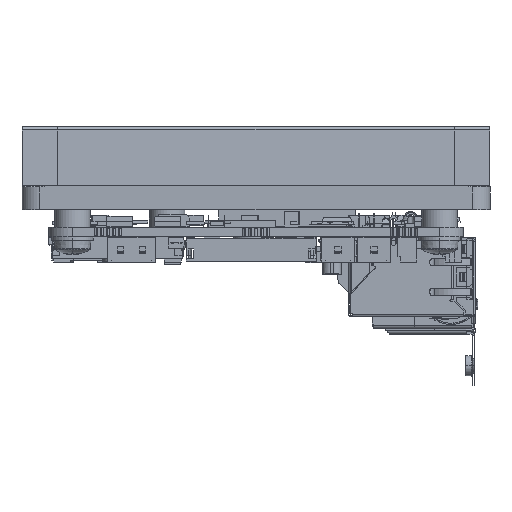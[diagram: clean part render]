
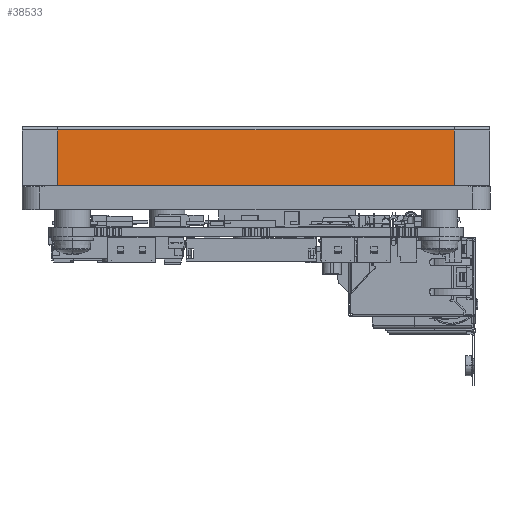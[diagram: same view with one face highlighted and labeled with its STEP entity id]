
A CAD part, left-side view. The second image highlights one B-rep face of the part: STEP entity #38533.
In plain terms, the highlighted planar face has unit normal (-0.998, 0, 0.065).
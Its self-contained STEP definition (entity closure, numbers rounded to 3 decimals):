
#35494=DIRECTION('',(0.,1.,0.));
#35495=VECTOR('',#35494,67.);
#35496=CARTESIAN_POINT('',(-1.42,1.5,
7.));
#35497=LINE('',#35496,#35495);
#35773=DIRECTION('',(-0.065,0.,-0.998));
#35774=VECTOR('',#35773,9.462);
#35775=CARTESIAN_POINT('',(-0.805,1.5,
16.442));
#35776=LINE('',#35775,#35774);
#35802=DIRECTION('',(0.065,0.,0.998));
#35803=VECTOR('',#35802,9.462);
#35804=CARTESIAN_POINT('',(-1.42,68.5,
7.));
#35805=LINE('',#35804,#35803);
#35838=DIRECTION('',(0.,-1.,0.));
#35839=VECTOR('',#35838,67.);
#35840=CARTESIAN_POINT('',(-0.805,68.5,
16.442));
#35841=LINE('',#35840,#35839);
#36183=CARTESIAN_POINT('',(-0.805,1.5,
16.442));
#36184=CARTESIAN_POINT('',(-1.42,1.5,
7.));
#36185=VERTEX_POINT('',#36183);
#36186=VERTEX_POINT('',#36184);
#36187=CARTESIAN_POINT('',(-0.805,68.5,
16.442));
#36188=VERTEX_POINT('',#36187);
#36189=CARTESIAN_POINT('',(-1.42,68.5,
7.));
#36190=VERTEX_POINT('',#36189);
#38520=CARTESIAN_POINT('',(-0.805,74.5,
16.442));
#38521=DIRECTION('',(0.998,0.,-0.065));
#38522=DIRECTION('',(-0.065,0.,-0.998));
#38523=AXIS2_PLACEMENT_3D('',#38520,#38521,#38522);
#38524=PLANE('',#38523);
#38525=ORIENTED_EDGE('',*,*,#38510,.T.);
#38526=ORIENTED_EDGE('',*,*,#38377,.T.);
#38528=ORIENTED_EDGE('',*,*,#38527,.T.);
#38530=ORIENTED_EDGE('',*,*,#38529,.T.);
#38531=EDGE_LOOP('',(#38525,#38526,#38528,#38530));
#38532=FACE_OUTER_BOUND('',#38531,.F.);
#38377=EDGE_CURVE('',#36186,#36190,#35497,.T.);
#38510=EDGE_CURVE('',#36185,#36186,#35776,.T.);
#38527=EDGE_CURVE('',#36190,#36188,#35805,.T.);
#38529=EDGE_CURVE('',#36188,#36185,#35841,.T.);
#38533=ADVANCED_FACE('',(#38532),#38524,.F.);
